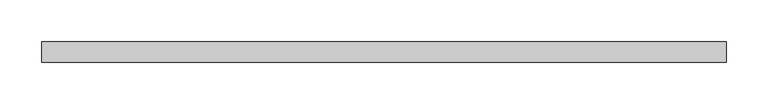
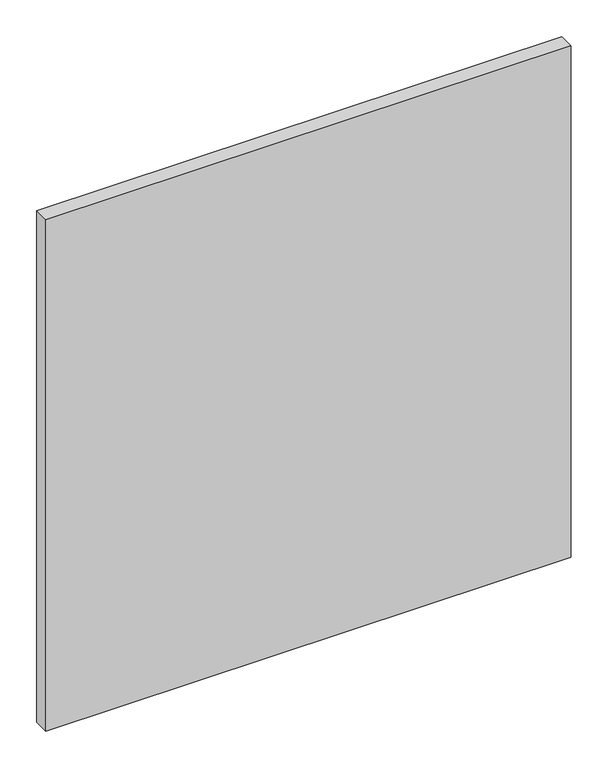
"""IFC4 building model written with IfcOpenShell, lengths in millimetres: plate geometry, 系统嵌板 : 玻璃."""

from ifc_helpers import new_model, si_unit, origin, origin_with_axes, place, context, project, spatial, polyline, outline, extrude, source, transform, mapped, element, save


def plate_036381eb(model_context):
    return source(origin(), model_context, "Body", "SweptSolid", [
        extrude(outline(polyline([(412.5, -12.5), (-412.5, -12.5), (-412.5, 12.5), (412.5, 12.5), (412.5, -12.5)])), origin_with_axes(), (0.0, 0.0, 1.0), 849.0),
    ])


if __name__ == "__main__":
    model = new_model("IFC4")
    model_context = context("Model", 3, world=origin())
    ifc_project = project(units=[si_unit("LENGTHUNIT", "METRE", prefix="MILLI")], contexts=[model_context])
    site = spatial("IfcSite", under=ifc_project)
    building = spatial("IfcBuilding", under=site)
    placement = place(None, origin())
    plate_shape = plate_036381eb(model_context)
    element("IfcPlate", 1, ObjectType="系统嵌板 : 玻璃", at=placement, inside=building, context=model_context, shape_type="MappedRepresentation", body=[
        mapped(plate_shape, transform((0.0, 0.0, 0.0), x_axis=(1.0, 0.0, 0.0), y_axis=(0.0, 1.0, 0.0), z_axis=(0.0, 0.0, 1.0))),
    ])
    save(model, "model.ifc")
